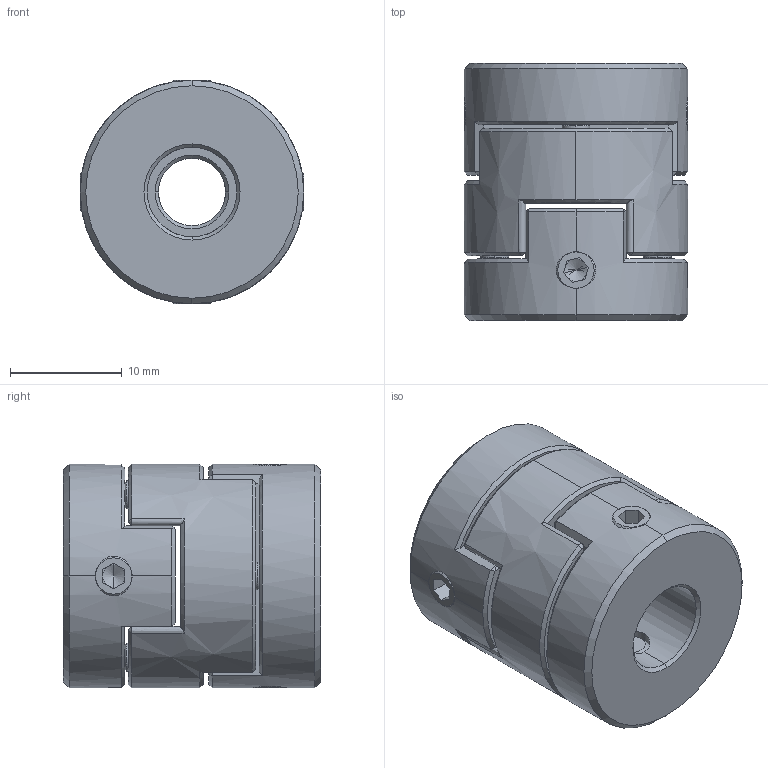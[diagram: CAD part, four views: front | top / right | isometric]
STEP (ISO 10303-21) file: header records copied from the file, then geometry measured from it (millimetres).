
FILE_DESCRIPTION (( 'STEP AP203' ), '1' );
FILE_NAME ('LZ-D-D20L23-6-8.STEP', '2021-10-30T01:44:49', ( '' ), ( '' ), 'SwSTEP 2.0', 'SolidWorks 2018', '' );
FILE_SCHEMA (( 'CONFIG_CONTROL_DESIGN' ));
Length unit declared in the file: millimetre
Products named in the file (1): LZ-D-D20L23-6-8
Bounding box: 20 x 23 x 20 mm (x, y, z)
Volume: 5971.8 mm3; surface area: 4112.7 mm2
Topology: 3 solids, 3 shells, 231 faces, 592 edges, 368 vertices
Faces by surface type: plane 117, cone 54, cylinder 34, bspline 26
Entity records: 9801 total; most frequent: CARTESIAN_POINT 4476, ORIENTED_EDGE 1168, DIRECTION 986, EDGE_CURVE 584, VERTEX_POINT 368, AXIS2_PLACEMENT_3D 360, LINE 266, VECTOR 266
